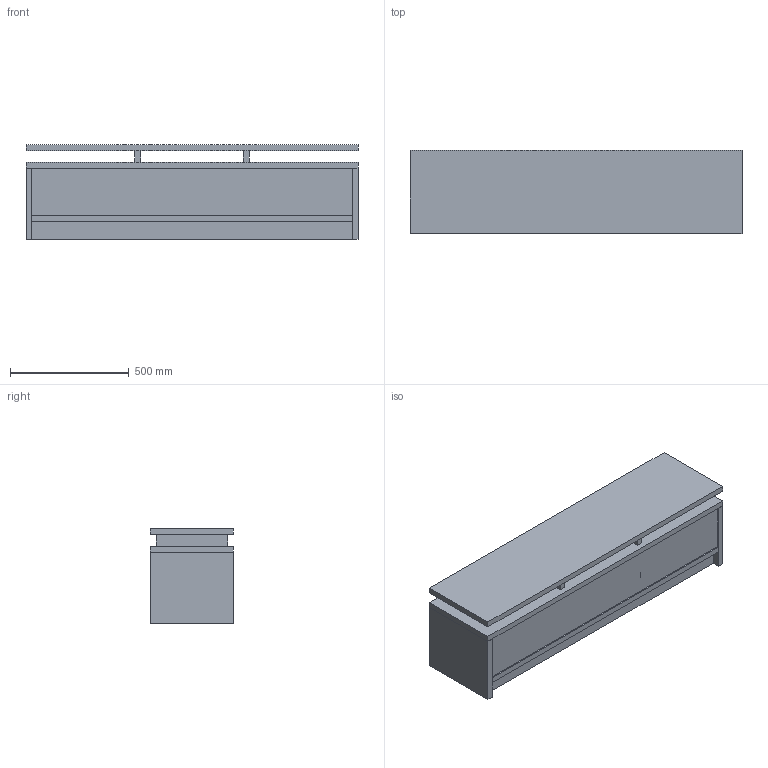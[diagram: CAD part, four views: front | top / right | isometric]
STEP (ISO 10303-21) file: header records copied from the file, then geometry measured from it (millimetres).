
FILE_DESCRIPTION(/* description */ (''),/* implementation_level */ '2;1');
FILE_NAME(/* name */ 'FRAMA_Ratio-Console-3D',/* time_stamp */ '2025-10-27T10:21:45+01:00',/* author */ (''),/* organization */ (''),/* preprocessor_version */ 'ST-DEVELOPER v16.5',/* originating_system */ 'Rhino 7.38',/* authorisation */ '');
FILE_SCHEMA (('CONFIG_CONTROL_DESIGN'));
Length unit declared in the file: millimetre
Products named in the file (1): Document
Bounding box: 1400 x 350 x 400 mm (x, y, z)
Volume: 58436151 mm3; surface area: 5772691.6 mm2
Topology: 15 solids, 15 shells, 90 faces, 180 edges, 120 vertices
Faces by surface type: plane 90
Entity records: 2072 total; most frequent: CARTESIAN_POINT 572, ORIENTED_EDGE 360, EDGE_CURVE 180, B_SPLINE_CURVE_WITH_KNOTS 180, VERTEX_POINT 120, DIRECTION 94, AXIS2_PLACEMENT_3D 92, ADVANCED_FACE 90
